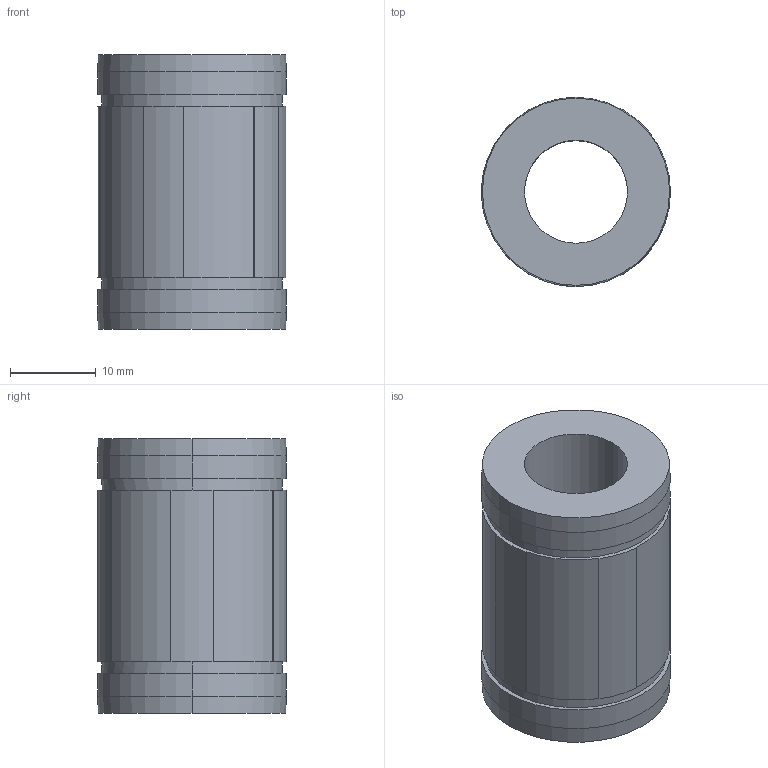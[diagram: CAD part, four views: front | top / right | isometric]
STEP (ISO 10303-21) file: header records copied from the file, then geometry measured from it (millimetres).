
FILE_DESCRIPTION((''),'2;1');
FILE_NAME('C:\Documents and Settings\ｿﾀﾀ蠑ｷ1\ｹﾙﾅﾁ ﾈｭｸ饅\ｺﾎﾇｰﾆﾄﾀﾏ\ﾁｦﾇｰ\LMES__UU\LMES12UU.stp','2005-06-15T14:04:23',('ｿﾀﾀ蠑ｷ1'),(''),'Autodesk Inventor 9','Autodesk Inventor 9','');
FILE_SCHEMA(('AUTOMOTIVE_DESIGN { 1 0 10303 214 1 1 1 1 }'));
Length unit declared in the file: millimetre
Products named in the file (1): LMES__
Bounding box: 22 x 22 x 32 mm (x, y, z)
Volume: 8352 mm3; surface area: 4063.1 mm2
Topology: 1 solids, 1 shells, 41 faces, 103 edges, 68 vertices
Faces by surface type: cylinder 21, plane 16, cone 4
Entity records: 1276 total; most frequent: DIRECTION 235, CARTESIAN_POINT 213, ORIENTED_EDGE 206, EDGE_CURVE 103, AXIS2_PLACEMENT_3D 90, VERTEX_POINT 68, VECTOR 55, LINE 55
